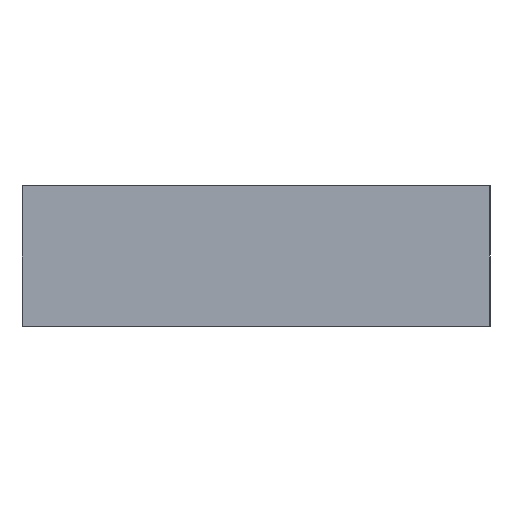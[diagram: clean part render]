
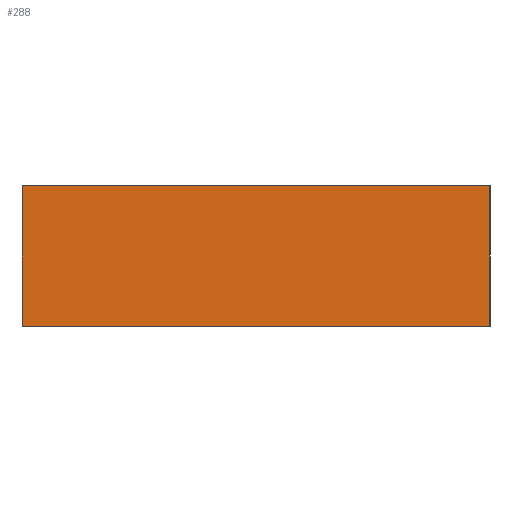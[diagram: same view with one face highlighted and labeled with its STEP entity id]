
A CAD part, left-side view. The second image highlights one B-rep face of the part: STEP entity #288.
In plain terms, the highlighted planar face has unit normal (-1, 0, 0).
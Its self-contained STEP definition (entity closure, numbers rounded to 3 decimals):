
#158=ORIENTED_EDGE('',*,*,#208,.T.);
#159=ORIENTED_EDGE('',*,*,#199,.T.);
#160=ORIENTED_EDGE('',*,*,#203,.T.);
#161=ORIENTED_EDGE('',*,*,#206,.T.);
#167=VECTOR('',#225,1.);
#171=VECTOR('',#231,1.);
#174=VECTOR('',#236,1.);
#176=VECTOR('',#240,1.);
#179=LINE('',#251,#167);
#183=LINE('',#259,#171);
#186=LINE('',#265,#174);
#188=LINE('',#268,#176);
#191=VERTEX_POINT('',#248);
#192=VERTEX_POINT('',#250);
#195=VERTEX_POINT('',#257);
#197=VERTEX_POINT('',#263);
#199=EDGE_CURVE('',#192,#191,#179,.T.);
#203=EDGE_CURVE('',#191,#195,#183,.T.);
#206=EDGE_CURVE('',#195,#197,#186,.T.);
#208=EDGE_CURVE('',#197,#192,#188,.T.);
#214=EDGE_LOOP('',(#158,#159,#160,#161));
#220=FACE_BOUND('',#214,.T.);
#225=DIRECTION('',(0.,-50.,0.));
#231=DIRECTION('',(0.,0.,15.));
#236=DIRECTION('',(0.,50.,0.));
#240=DIRECTION('',(0.,0.,-15.));
#242=DIRECTION('',(-1.,0.,0.));
#243=DIRECTION('',(0.,1.,0.));
#248=CARTESIAN_POINT('',(44.099,0.,-15.));
#250=CARTESIAN_POINT('',(44.099,50.,-15.));
#251=CARTESIAN_POINT('',(44.099,50.,-15.));
#257=CARTESIAN_POINT('',(44.099,0.,0.));
#259=CARTESIAN_POINT('',(44.099,0.,-15.));
#263=CARTESIAN_POINT('',(44.099,50.,0.));
#265=CARTESIAN_POINT('',(44.099,0.,0.));
#268=CARTESIAN_POINT('',(44.099,50.,0.));
#270=CARTESIAN_POINT('',(44.099,50.,0.));
#276=AXIS2_PLACEMENT_3D('',#270,#242,#243);
#282=PLANE('',#276);
#288=ADVANCED_FACE('',(#220),#282,.T.);
